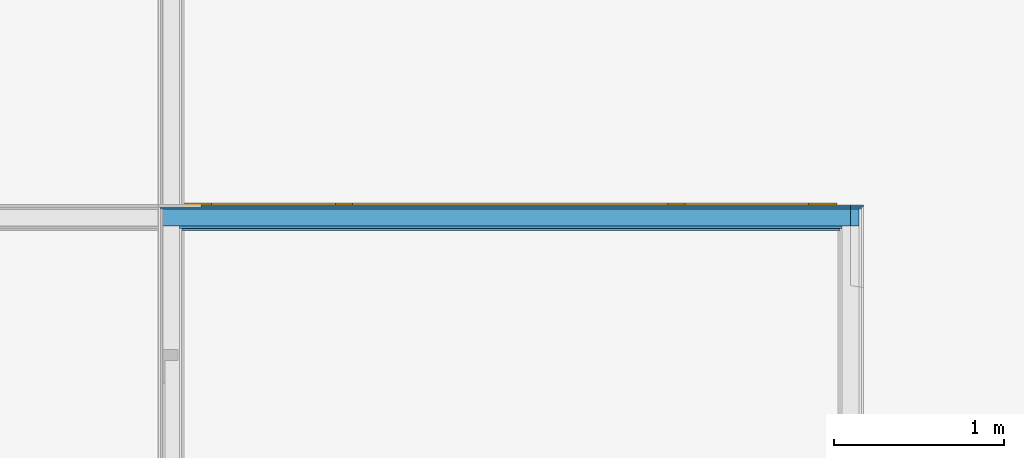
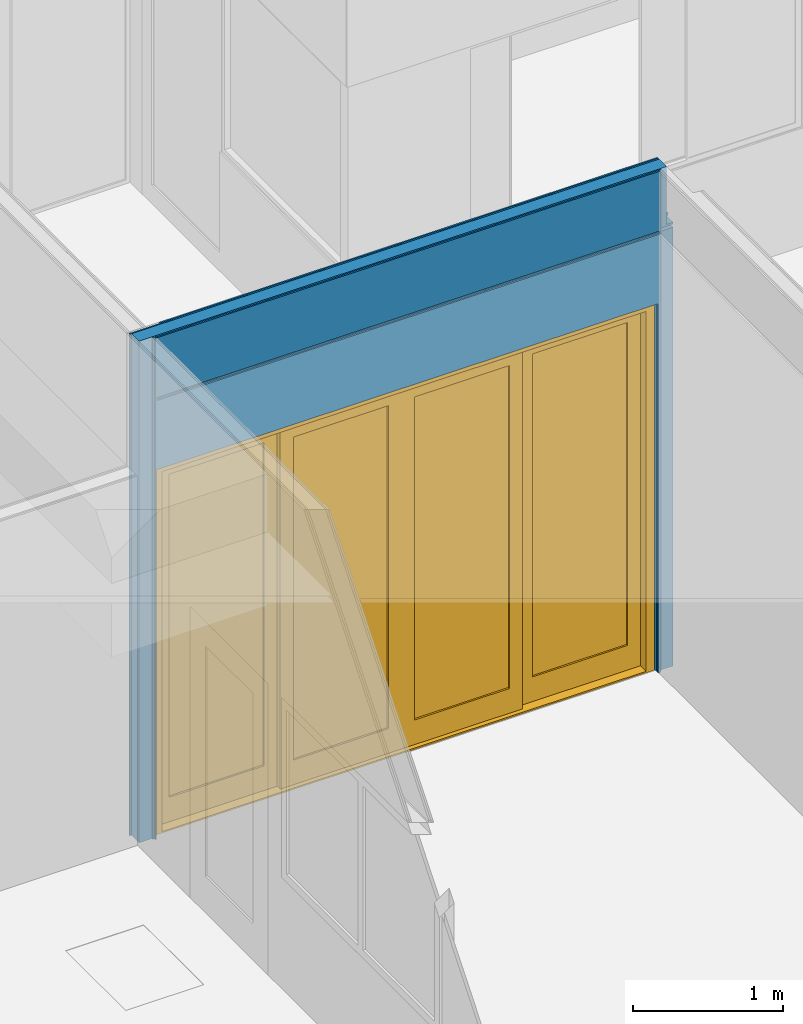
# One storey, part 31 of 109: 5 building element parts, 1 door, 1 opening, 1 element without a shape of its own.
"""IFC2X3 building model written with IfcOpenShell, lengths in millimetres."""

from ifc_helpers import new_model, entity, si_unit, converted_unit, derived_unit, money_unit, direction, frame, origin_with_axes, place, context, subcontext, project, spatial, open_shell, faceted_brep, surface_model, material, type_object, element, fill, aggregate, save


model = new_model("IFC2X3")

# Units and contexts
model_context = context("Model", 3, precision=0.01, world=origin_with_axes(), true_north=direction((0.0, 1.0)))
body_context = subcontext(model_context, "Body", "Model", "MODEL_VIEW")
ifc_project = project(units=[si_unit("LENGTHUNIT", "METRE", prefix="MILLI"), si_unit("AREAUNIT", "SQUARE_METRE"), si_unit("VOLUMEUNIT", "CUBIC_METRE"), converted_unit("PLANEANGLEUNIT", "DEGREE", entity("IfcPlaneAngleMeasure", 0.0174532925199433), si_unit("PLANEANGLEUNIT", "RADIAN"), dimensions=[0, 0, 0, 0, 0, 0, 0]), money_unit("EUR"), converted_unit("TIMEUNIT", "Year", entity("IfcTimeMeasure", 31557600.0), si_unit("TIMEUNIT", "SECOND"), dimensions=[0, 0, 1, 0, 0, 0, 0]), si_unit("MASSUNIT", "GRAM", prefix="KILO"), si_unit("THERMODYNAMICTEMPERATUREUNIT", "DEGREE_CELSIUS"), si_unit("LUMINOUSINTENSITYUNIT", "LUMEN"), si_unit("ENERGYUNIT", "JOULE", prefix="MEGA"), derived_unit("THERMALCONDUCTANCEUNIT", [(si_unit("POWERUNIT", "WATT"), 1), (si_unit("LENGTHUNIT", "METRE"), -1), (si_unit("THERMODYNAMICTEMPERATUREUNIT", "KELVIN"), -1)]), derived_unit("SPECIFICHEATCAPACITYUNIT", [(si_unit("ENERGYUNIT", "JOULE"), 1), (si_unit("MASSUNIT", "GRAM", prefix="KILO"), -1), (si_unit("THERMODYNAMICTEMPERATUREUNIT", "KELVIN"), -1)]), derived_unit("MASSDENSITYUNIT", [(si_unit("MASSUNIT", "GRAM", prefix="KILO"), 1), (si_unit("VOLUMEUNIT", "CUBIC_METRE"), -1)])], contexts=[model_context])

# Site, building, storey
site_placement = place(None, origin_with_axes())
site = spatial("IfcSite", under=ifc_project, at=site_placement, Name="<site naam>", CompositionType="ELEMENT")
building_placement = place(site_placement, origin_with_axes())
building = spatial("IfcBuilding", under=site, at=building_placement, Name="<Naam gebouw>", CompositionType="ELEMENT")
storey_placement = place(building_placement, origin_with_axes())
storey = spatial("IfcBuildingStorey", under=building, at=storey_placement, Name="00 Begane grond", CompositionType="ELEMENT", Elevation=0.0)

# Door
door_style = type_object("IfcDoorStyle", Name="DSn 27", ConstructionType="NOTDEFINED", OperationType="USERDEFINED", ParameterTakesPrecedence=False, Sizeable=False)
wall_placement = place(storey_placement, frame((0.0, 8000.000000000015, 0.0), z_axis=(0.0, 0.0, 1.0), x_axis=(-1.0, 0.0, 0.0)))
opening_placement = place(wall_placement, frame((2004.913523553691, 0.0, 0.0), z_axis=(0.0, 0.0, 1.0), x_axis=(1.0, 0.0, 0.0)))
door_placement = place(opening_placement, frame((1925.0, 0.0, 0.0), z_axis=(0.0, 0.0, 1.0), x_axis=(-1.0, 0.0, 0.0)))
door = element("IfcDoor", 1, at=door_placement, inside=storey, type_object=door_style, Name="22_BI-G-01_305", ObjectType="DOOR", OverallHeight=3000.0, OverallWidth=3850.0, context=body_context, shape_type="SurfaceModel", body=[
    faceted_brep([(3783.0, 84.99999999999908, 0.0), (3783.0, -29.00000000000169, 0.0), (67.00000000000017, -29.0000000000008, 0.0), (67.00000000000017, 84.99999999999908, 0.0), (3783.0, 84.99999999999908, 12.0), (3783.0, -29.00000000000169, 11.99999999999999), (67.00000000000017, -29.0000000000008, 12.00000000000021), (67.00000000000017, 84.99999999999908, 12.00000000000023)], [[[0, 1, 2, 3]], [[0, 4, 5, 1]], [[1, 5, 6, 2]], [[3, 2, 6, 7]], [[4, 0, 3, 7]], [[5, 4, 7, 6]]]),
    faceted_brep([(0.0, 84.99999999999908, 0.0), (67.00000000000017, 84.99999999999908, 0.0), (67.00000000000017, -29.0000000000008, 0.0), (0.0, -29.0000000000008, 0.0), (0.0, 84.99999999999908, 2933.0), (67.00000000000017, 84.99999999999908, 2933.0), (67.00000000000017, -29.0000000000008, 2933.0), (0.0, -29.0000000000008, 2933.0)], [[[0, 1, 2, 3]], [[0, 4, 5, 1]], [[1, 5, 6, 2]], [[3, 2, 6, 7]], [[4, 0, 3, 7]], [[5, 4, 7, 6]]]),
    faceted_brep([(3850.0, 84.99999999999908, 0.0), (3850.0, 84.99999999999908, 2933.0), (3850.0, -29.00000000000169, 2933.0), (3850.0, -29.00000000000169, 0.0), (3783.0, 84.99999999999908, 0.0), (3783.0, 84.99999999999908, 2933.0), (3783.0, -29.00000000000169, 2933.0), (3783.0, -29.00000000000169, 0.0)], [[[0, 1, 2, 3]], [[0, 4, 5, 1]], [[1, 5, 6, 2]], [[3, 2, 6, 7]], [[4, 0, 3, 7]], [[5, 4, 7, 6]]]),
    faceted_brep([(0.0, 84.99999999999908, 3000.0), (0.0, 84.99999999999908, 2933.0), (0.0, -29.0000000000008, 2933.0), (0.0, -29.0000000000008, 3000.0), (3850.0, 84.99999999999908, 3000.0), (3850.0, 84.99999999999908, 2933.0), (3783.0, 84.99999999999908, 2933.0), (67.00000000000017, 84.99999999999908, 2933.0), (67.00000000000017, -29.0000000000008, 2933.0), (3783.0, -29.00000000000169, 2933.0), (3850.0, -29.00000000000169, 2933.0), (3850.0, -29.00000000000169, 3000.0)], [[[0, 1, 2, 3]], [[0, 4, 5, 6, 7, 1]], [[1, 7, 8, 2]], [[3, 2, 8, 9, 10, 11]], [[4, 0, 3, 11]], [[5, 4, 11, 10]], [[6, 5, 10, 9]], [[7, 6, 9, 8]]]),
    faceted_brep([(996.0, 84.99999999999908, 212.0), (996.0, 44.99999999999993, 212.0), (895.9999999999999, 44.99999999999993, 212.0), (895.9999999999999, 84.99999999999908, 212.0), (996.0, 84.99999999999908, 2833.0), (996.0, 44.99999999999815, 2833.0), (895.9999999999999, 44.99999999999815, 2833.0), (895.9999999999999, 84.99999999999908, 2833.0)], [[[0, 1, 2, 3]], [[4, 5, 1, 0]], [[1, 5, 6, 2]], [[3, 2, 6, 7]], [[0, 3, 7, 4]], [[7, 6, 5, 4]]]),
    faceted_brep([(67.00000000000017, 84.99999999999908, 212.0), (67.00000000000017, 44.99999999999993, 212.0), (67.00000000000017, 44.99999999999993, 2833.0), (67.00000000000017, 84.99999999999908, 2833.0), (167.0000000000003, 84.99999999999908, 212.0), (167.0000000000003, 44.99999999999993, 212.0), (167.0000000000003, 44.99999999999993, 2833.0), (167.0000000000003, 84.99999999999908, 2833.0)], [[[0, 1, 2, 3]], [[4, 5, 1, 0]], [[1, 5, 6, 2]], [[3, 2, 6, 7]], [[0, 3, 7, 4]], [[7, 6, 5, 4]]]),
    faceted_brep([(996.0, 84.99999999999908, 12.0), (996.0, 44.99999999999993, 12.0), (67.00000000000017, 44.99999999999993, 12.0), (67.00000000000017, 84.99999999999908, 12.0), (996.0, 84.99999999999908, 212.0), (996.0, 44.99999999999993, 212.0), (895.9999999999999, 44.99999999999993, 212.0), (167.0000000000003, 44.99999999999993, 212.0), (67.00000000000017, 44.99999999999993, 212.0), (67.00000000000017, 84.99999999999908, 212.0), (167.0000000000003, 84.99999999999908, 212.0), (895.9999999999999, 84.99999999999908, 212.0)], [[[0, 1, 2, 3]], [[4, 5, 1, 0]], [[1, 5, 6, 7, 8, 2]], [[3, 2, 8, 9]], [[0, 3, 9, 10, 11, 4]], [[11, 6, 5, 4]], [[10, 7, 6, 11]], [[9, 8, 7, 10]]]),
    faceted_brep([(996.0, 84.99999999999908, 2933.0), (996.0, 44.99999999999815, 2933.0), (996.0, 44.99999999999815, 2833.0), (996.0, 84.99999999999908, 2833.0), (67.00000000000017, 84.99999999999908, 2933.0), (67.00000000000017, 44.99999999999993, 2933.0), (67.00000000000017, 44.99999999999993, 2833.0), (167.0000000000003, 44.99999999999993, 2833.0), (895.9999999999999, 44.99999999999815, 2833.0), (895.9999999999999, 84.99999999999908, 2833.0), (167.0000000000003, 84.99999999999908, 2833.0), (67.00000000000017, 84.99999999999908, 2833.0)], [[[0, 1, 2, 3]], [[4, 5, 1, 0]], [[1, 5, 6, 7, 8, 2]], [[3, 2, 8, 9]], [[0, 3, 9, 10, 11, 4]], [[11, 6, 5, 4]], [[10, 7, 6, 11]], [[9, 8, 7, 10]]]),
    surface_model("IfcShellBasedSurfaceModel", [(895.9999999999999, 70.99999999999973, 212.0), (167.0000000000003, 70.99999999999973, 212.0), (167.0000000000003, 70.99999999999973, 2833.0), (895.9999999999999, 70.99999999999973, 2833.0)], [open_shell([[[0, 1, 2, 3]]])]),
    surface_model("IfcShellBasedSurfaceModel", [(895.9999999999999, 58.99999999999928, 212.0), (895.9999999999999, 58.99999999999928, 2833.0), (167.0000000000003, 58.99999999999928, 2833.0), (167.0000000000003, 58.99999999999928, 212.0)], [open_shell([[[0, 1, 2, 3]]])]),
    faceted_brep([(996.0, 44.99999999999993, 212.0), (1096.0, 44.99999999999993, 212.0), (1096.0, 4.999999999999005, 212.0), (996.0, 4.999999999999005, 212.0), (996.0, 44.99999999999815, 2833.0), (1096.0, 44.99999999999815, 2833.0), (1096.0, 4.999999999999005, 2833.0), (996.0, 4.999999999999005, 2833.0)], [[[0, 1, 2, 3]], [[0, 4, 5, 1]], [[1, 5, 6, 2]], [[3, 2, 6, 7]], [[4, 0, 3, 7]], [[5, 4, 7, 6]]]),
    faceted_brep([(1925.0, 44.99999999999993, 212.0), (1925.0, 44.99999999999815, 2833.0), (1925.0, 4.999999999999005, 2833.0), (1925.0, 4.999999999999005, 212.0), (1825.0, 44.99999999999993, 212.0), (1825.0, 44.99999999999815, 2833.0), (1825.0, 4.999999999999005, 2833.0), (1825.0, 4.999999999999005, 212.0)], [[[0, 1, 2, 3]], [[0, 4, 5, 1]], [[1, 5, 6, 2]], [[3, 2, 6, 7]], [[4, 0, 3, 7]], [[5, 4, 7, 6]]]),
    faceted_brep([(996.0, 44.99999999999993, 12.0), (1925.0, 44.99999999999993, 12.0), (1925.0, 4.999999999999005, 11.99999999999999), (996.0, 4.999999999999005, 11.99999999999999), (996.0, 44.99999999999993, 212.0), (1096.0, 44.99999999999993, 212.0), (1825.0, 44.99999999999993, 212.0), (1925.0, 44.99999999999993, 212.0), (1925.0, 4.999999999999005, 212.0), (1825.0, 4.999999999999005, 212.0), (1096.0, 4.999999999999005, 212.0), (996.0, 4.999999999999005, 212.0)], [[[0, 1, 2, 3]], [[0, 4, 5, 6, 7, 1]], [[1, 7, 8, 2]], [[3, 2, 8, 9, 10, 11]], [[4, 0, 3, 11]], [[5, 4, 11, 10]], [[6, 5, 10, 9]], [[7, 6, 9, 8]]]),
    faceted_brep([(996.0, 44.99999999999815, 2933.0), (996.0, 44.99999999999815, 2833.0), (996.0, 4.999999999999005, 2833.0), (996.0, 4.999999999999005, 2933.0), (1925.0, 44.99999999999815, 2933.0), (1925.0, 44.99999999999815, 2833.0), (1825.0, 44.99999999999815, 2833.0), (1096.0, 44.99999999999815, 2833.0), (1096.0, 4.999999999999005, 2833.0), (1825.0, 4.999999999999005, 2833.0), (1925.0, 4.999999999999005, 2833.0), (1925.0, 4.999999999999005, 2933.0)], [[[0, 1, 2, 3]], [[0, 4, 5, 6, 7, 1]], [[1, 7, 8, 2]], [[3, 2, 8, 9, 10, 11]], [[4, 0, 3, 11]], [[5, 4, 11, 10]], [[6, 5, 10, 9]], [[7, 6, 9, 8]]]),
    surface_model("IfcShellBasedSurfaceModel", [(1096.0, 30.99999999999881, 212.0), (1096.0, 30.99999999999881, 2833.0), (1825.0, 30.99999999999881, 2833.0), (1825.0, 30.99999999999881, 212.0)], [open_shell([[[0, 1, 2, 3]]])]),
    surface_model("IfcShellBasedSurfaceModel", [(1096.0, 19.00000000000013, 212.0), (1825.0, 18.99999999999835, 212.0), (1825.0, 18.99999999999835, 2833.0), (1096.0, 18.99999999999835, 2833.0)], [open_shell([[[0, 1, 2, 3]]])]),
    faceted_brep([(2854.0, 84.99999999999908, 212.0), (2954.0, 84.99999999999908, 212.0), (2954.0, 44.99999999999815, 212.0), (2854.0, 44.99999999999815, 212.0), (2854.0, 84.99999999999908, 2833.0), (2954.0, 84.99999999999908, 2833.0), (2954.0, 44.99999999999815, 2833.0), (2854.0, 44.99999999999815, 2833.0)], [[[0, 1, 2, 3]], [[0, 4, 5, 1]], [[1, 5, 6, 2]], [[3, 2, 6, 7]], [[4, 0, 3, 7]], [[5, 4, 7, 6]]]),
    faceted_brep([(3783.0, 84.99999999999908, 212.0), (3783.0, 84.99999999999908, 2833.0), (3783.0, 44.99999999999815, 2833.0), (3783.0, 44.99999999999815, 212.0), (3683.0, 84.99999999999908, 212.0), (3683.0, 84.99999999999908, 2833.0), (3683.0, 44.99999999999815, 2833.0), (3683.0, 44.99999999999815, 212.0)], [[[0, 1, 2, 3]], [[0, 4, 5, 1]], [[1, 5, 6, 2]], [[3, 2, 6, 7]], [[4, 0, 3, 7]], [[5, 4, 7, 6]]]),
    faceted_brep([(2854.0, 84.99999999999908, 12.0), (3783.0, 84.99999999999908, 12.0), (3783.0, 44.99999999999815, 12.0), (2854.0, 44.99999999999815, 12.0), (2854.0, 84.99999999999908, 212.0), (2954.0, 84.99999999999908, 212.0), (3683.0, 84.99999999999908, 212.0), (3783.0, 84.99999999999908, 212.0), (3783.0, 44.99999999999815, 212.0), (3683.0, 44.99999999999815, 212.0), (2954.0, 44.99999999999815, 212.0), (2854.0, 44.99999999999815, 212.0)], [[[0, 1, 2, 3]], [[0, 4, 5, 6, 7, 1]], [[1, 7, 8, 2]], [[3, 2, 8, 9, 10, 11]], [[4, 0, 3, 11]], [[5, 4, 11, 10]], [[6, 5, 10, 9]], [[7, 6, 9, 8]]]),
    faceted_brep([(2854.0, 84.99999999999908, 2933.0), (2854.0, 84.99999999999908, 2833.0), (2854.0, 44.99999999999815, 2833.0), (2854.0, 44.99999999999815, 2933.0), (3783.0, 84.99999999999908, 2933.0), (3783.0, 84.99999999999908, 2833.0), (3683.0, 84.99999999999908, 2833.0), (2954.0, 84.99999999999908, 2833.0), (2954.0, 44.99999999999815, 2833.0), (3683.0, 44.99999999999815, 2833.0), (3783.0, 44.99999999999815, 2833.0), (3783.0, 44.99999999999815, 2933.0)], [[[0, 1, 2, 3]], [[0, 4, 5, 6, 7, 1]], [[1, 7, 8, 2]], [[3, 2, 8, 9, 10, 11]], [[4, 0, 3, 11]], [[5, 4, 11, 10]], [[6, 5, 10, 9]], [[7, 6, 9, 8]]]),
    surface_model("IfcShellBasedSurfaceModel", [(2954.0, 70.99999999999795, 212.0), (2954.0, 70.99999999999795, 2833.0), (3683.0, 70.99999999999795, 2833.0), (3683.0, 70.99999999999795, 212.0)], [open_shell([[[0, 1, 2, 3]]])]),
    surface_model("IfcShellBasedSurfaceModel", [(2954.0, 58.99999999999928, 212.0), (3683.0, 58.99999999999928, 212.0), (3683.0, 58.99999999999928, 2833.0), (2954.0, 58.99999999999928, 2833.0)], [open_shell([[[0, 1, 2, 3]]])]),
    faceted_brep([(2854.0, 44.99999999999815, 212.0), (2854.0, 4.999999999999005, 212.0), (2754.0, 4.999999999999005, 212.0), (2754.0, 44.99999999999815, 212.0), (2854.0, 44.99999999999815, 2833.0), (2854.0, 4.999999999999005, 2833.0), (2754.0, 4.999999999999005, 2833.0), (2754.0, 44.99999999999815, 2833.0)], [[[0, 1, 2, 3]], [[4, 5, 1, 0]], [[1, 5, 6, 2]], [[3, 2, 6, 7]], [[0, 3, 7, 4]], [[7, 6, 5, 4]]]),
    faceted_brep([(1925.0, 44.99999999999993, 212.0), (1925.0, 4.999999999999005, 212.0), (1925.0, 4.999999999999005, 2833.0), (1925.0, 44.99999999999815, 2833.0), (2025.0, 44.99999999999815, 212.0), (2025.0, 4.999999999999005, 212.0), (2025.0, 4.999999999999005, 2833.0), (2025.0, 44.99999999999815, 2833.0)], [[[0, 1, 2, 3]], [[4, 5, 1, 0]], [[1, 5, 6, 2]], [[3, 2, 6, 7]], [[0, 3, 7, 4]], [[7, 6, 5, 4]]]),
    faceted_brep([(2854.0, 44.99999999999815, 12.0), (2854.0, 4.999999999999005, 11.99999999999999), (1925.0, 4.999999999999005, 11.99999999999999), (1925.0, 44.99999999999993, 12.0), (2854.0, 44.99999999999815, 212.0), (2854.0, 4.999999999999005, 212.0), (2754.0, 4.999999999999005, 212.0), (2025.0, 4.999999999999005, 212.0), (1925.0, 4.999999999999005, 212.0), (1925.0, 44.99999999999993, 212.0), (2025.0, 44.99999999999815, 212.0), (2754.0, 44.99999999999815, 212.0)], [[[0, 1, 2, 3]], [[4, 5, 1, 0]], [[1, 5, 6, 7, 8, 2]], [[3, 2, 8, 9]], [[0, 3, 9, 10, 11, 4]], [[11, 6, 5, 4]], [[10, 7, 6, 11]], [[9, 8, 7, 10]]]),
    faceted_brep([(2854.0, 44.99999999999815, 2933.0), (2854.0, 4.999999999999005, 2933.0), (2854.0, 4.999999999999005, 2833.0), (2854.0, 44.99999999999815, 2833.0), (1925.0, 44.99999999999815, 2933.0), (1925.0, 4.999999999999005, 2933.0), (1925.0, 4.999999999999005, 2833.0), (2025.0, 4.999999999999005, 2833.0), (2754.0, 4.999999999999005, 2833.0), (2754.0, 44.99999999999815, 2833.0), (2025.0, 44.99999999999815, 2833.0), (1925.0, 44.99999999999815, 2833.0)], [[[0, 1, 2, 3]], [[4, 5, 1, 0]], [[1, 5, 6, 7, 8, 2]], [[3, 2, 8, 9]], [[0, 3, 9, 10, 11, 4]], [[11, 6, 5, 4]], [[10, 7, 6, 11]], [[9, 8, 7, 10]]]),
    surface_model("IfcShellBasedSurfaceModel", [(2754.0, 30.99999999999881, 212.0), (2025.0, 30.99999999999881, 212.0), (2025.0, 30.99999999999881, 2833.0), (2754.0, 30.99999999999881, 2833.0)], [open_shell([[[0, 1, 2, 3]]])]),
    surface_model("IfcShellBasedSurfaceModel", [(2754.0, 18.99999999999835, 212.0), (2754.0, 18.99999999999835, 2833.0), (2025.0, 18.99999999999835, 2833.0), (2025.0, 18.99999999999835, 212.0)], [open_shell([[[0, 1, 2, 3]]])]),
])

# Wall, opening
wall_type = type_object("IfcWallType", Name="MS-01 GF 150 ECO DGS/2.100.2.A 150", PredefinedType="NOTDEFINED")
wall = element("IfcWall", 2, at=wall_placement, inside=storey, type_object=wall_type, Name="22_Binnenwand_MS-01")
opening = element("IfcOpeningElement", 3, at=opening_placement, cuts=wall, Name="22_BI-G-01_305", context=body_context, shape_type="Brep", body=[
    faceted_brep([(1925.0, 76.00000000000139, 3000.0), (1925.0, 76.00000000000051, 0.0), (-1925.0, 76.00000000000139, 0.0), (-1925.0, 76.00000000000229, 3000.0), (1925.0, -75.99999999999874, 3000.0), (1925.0, -76.00000000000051, 0.0), (-1925.0, -75.99999999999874, 0.0), (-1925.0, -75.99999999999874, 3000.0)], [[[0, 1, 2, 3]], [[4, 5, 1, 0]], [[5, 6, 2, 1]], [[6, 7, 3, 2]], [[7, 4, 0, 3]], [[6, 5, 4, 7]]]),
])

fill(opening, door)

# Building element part
ifc_material_1 = material(Name="gipsplaat")
building_element_part_1_placement = place(wall_placement, origin_with_axes())
building_element_part_1 = element("IfcBuildingElementPart", 4, at=building_element_part_1_placement, material=ifc_material_1, Name="gipsplaat", context=body_context, shape_type="Brep", body=[
    faceted_brep([(62.50000000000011, 75.00000000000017, 4070.0), (62.50000000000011, 75.00000000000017, 3585.0), (62.50000000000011, 62.5, 3585.0), (62.50000000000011, 62.5, 4070.0), (3925.000176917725, 75.00000000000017, 3560.0), (3925.000176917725, 75.00000000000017, 3585.0), (3937.500000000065, 75.00000000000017, 4070.0), (3937.500000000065, 74.99999999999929, 0.0), (3925.000003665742, 74.99999999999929, 0.0), (3925.000003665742, 75.00000000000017, 3.000000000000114), (75.0000165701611, 75.00000000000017, 3.000000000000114), (75.0000165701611, 75.00000000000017, 0.0), (62.50000000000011, 75.00000000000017, 0.0), (62.50000000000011, 75.00000000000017, 3560.0), (3925.000176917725, 62.5, 3585.0), (3925.000176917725, 62.5, 3560.0), (62.50000000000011, 62.5, 3560.0), (62.50000000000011, 62.5, 0.0), (75.0000165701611, 62.5, 0.0), (75.0000165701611, 62.5, 3.000000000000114), (3925.000003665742, 62.5, 3.000000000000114), (3925.000003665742, 62.5, 0.0), (3937.500000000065, 62.5, 0.0), (3937.500000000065, 62.5, 4070.0)], [[[0, 1, 2, 3]], [[4, 5, 1, 0, 6, 7, 8, 9, 10, 11, 12, 13]], [[5, 14, 2, 1]], [[14, 15, 16, 17, 18, 19, 20, 21, 22, 23, 3, 2]], [[0, 3, 23, 6]], [[4, 15, 14, 5]], [[22, 7, 6, 23]], [[22, 21, 8, 7]], [[8, 21, 20, 9]], [[9, 20, 19, 10]], [[10, 19, 18, 11]], [[12, 11, 18, 17]], [[17, 16, 13, 12]], [[4, 13, 16, 15]]]),
])

ifc_material_2 = material(Name="isolatie_steenwol LSW")
building_element_part_2_placement = place(wall_placement, origin_with_axes())
building_element_part_2 = element("IfcBuildingElementPart", 5, at=building_element_part_2_placement, material=ifc_material_2, Name="isolatie_steenwol LSW", context=body_context, shape_type="Brep", body=[
    faceted_brep([(4050.000000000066, -50.00000000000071, 4070.0), (0.0, -49.99999999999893, 4070.0), (0.0, -50.00000000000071, 3600.0), (-50.00000000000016, -49.99999999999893, 3600.0), (-50.00000000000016, -49.99999999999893, 3585.0), (3925.000176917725, -50.00000000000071, 3585.0), (3925.000176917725, -50.00000000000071, 3560.0), (-50.00000000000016, -49.99999999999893, 3560.0), (-50.00000000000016, -50.00000000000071, 0.0), (4050.000000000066, -50.00000000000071, 0.0), (4050.000000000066, 49.99999999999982, 4070.0), (0.0, 49.99999999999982, 4070.0), (0.0, 49.99999999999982, 3600.0), (-50.00000000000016, 49.99999999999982, 3600.0), (-50.00000000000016, 49.99999999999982, 3585.0), (3925.000176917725, 49.99999999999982, 3585.0), (3925.000176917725, 49.99999999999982, 3560.0), (-50.00000000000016, 49.99999999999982, 3560.0), (-50.00000000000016, 49.99999999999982, 0.0), (75.0000165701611, 49.99999999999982, 0.0), (75.0000165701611, 39.00000000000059, 0.0), (3925.000003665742, 39.00000000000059, 0.0), (3925.000003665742, 49.99999999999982, 0.0), (4050.000000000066, 49.99999999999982, 0.0), (3925.000003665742, 49.99999999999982, 3.000000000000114), (75.0000165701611, 49.99999999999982, 3.000000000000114), (75.0000165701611, 39.00000000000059, 3.000000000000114), (3925.000003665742, 39.00000000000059, 3.000000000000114)], [[[0, 1, 2, 3, 4, 5, 6, 7, 8, 9]], [[10, 11, 1, 0]], [[12, 2, 1, 11]], [[12, 13, 3, 2]], [[4, 3, 13, 14]], [[14, 15, 5, 4]], [[15, 16, 6, 5]], [[6, 16, 17, 7]], [[18, 8, 7, 17]], [[19, 20, 21, 22, 23, 9, 8, 18]], [[0, 9, 23, 10]], [[13, 12, 11, 10, 23, 22, 24, 25, 19, 18, 17, 16, 15, 14]], [[25, 26, 20, 19]], [[26, 27, 21, 20]], [[27, 24, 22, 21]], [[27, 26, 25, 24]]]),
])

building_element_part_3_placement = place(wall_placement, origin_with_axes())
building_element_part_3 = element("IfcBuildingElementPart", 6, at=building_element_part_3_placement, material=ifc_material_1, Name="gipsplaat", context=body_context, shape_type="Brep", body=[
    faceted_brep([(49.99999999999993, 62.5, 4070.0), (49.99999999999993, 62.5, 3585.0), (49.99999999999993, 49.99999999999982, 3585.0), (49.99999999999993, 49.99999999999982, 4070.0), (3925.000176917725, 62.49999999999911, 3560.0), (3925.000176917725, 62.49999999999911, 3585.0), (3950.000000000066, 62.5, 4070.0), (3950.000000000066, 62.5, 0.0), (3925.000003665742, 62.5, 0.0), (3925.000003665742, 62.5, 3.000000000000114), (75.0000165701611, 62.5, 3.000000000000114), (75.0000165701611, 62.5, 0.0), (49.99999999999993, 62.5, 0.0), (49.99999999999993, 62.5, 3560.0), (3925.000176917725, 49.99999999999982, 3585.0), (3925.000176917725, 49.99999999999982, 3560.0), (49.99999999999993, 49.99999999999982, 3560.0), (49.99999999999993, 49.99999999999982, 0.0), (75.0000165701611, 49.99999999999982, 0.0), (75.0000165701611, 49.99999999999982, 3.000000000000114), (3925.000003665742, 49.99999999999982, 3.000000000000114), (3925.000003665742, 49.99999999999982, 0.0), (3950.000000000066, 49.99999999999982, 0.0), (3950.000000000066, 49.99999999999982, 4070.0)], [[[0, 1, 2, 3]], [[4, 5, 1, 0, 6, 7, 8, 9, 10, 11, 12, 13]], [[5, 14, 2, 1]], [[14, 15, 16, 17, 18, 19, 20, 21, 22, 23, 3, 2]], [[0, 3, 23, 6]], [[4, 15, 14, 5]], [[22, 7, 6, 23]], [[22, 21, 8, 7]], [[8, 21, 20, 9]], [[9, 20, 19, 10]], [[10, 19, 18, 11]], [[12, 11, 18, 17]], [[17, 16, 13, 12]], [[4, 13, 16, 15]]]),
])

building_element_part_4_placement = place(wall_placement, origin_with_axes())
building_element_part_4 = element("IfcBuildingElementPart", 7, at=building_element_part_4_placement, material=ifc_material_1, Name="gipsplaat", context=body_context, shape_type="Brep", body=[
    faceted_brep([(4062.500000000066, -62.5, 4070.0), (0.0, -62.5, 4070.0), (0.0, -62.5, 3600.0), (-62.50000000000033, -62.5, 3600.0), (-62.50000000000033, -62.5, 3585.0), (3925.000176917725, -62.5, 3585.0), (3925.000176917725, -62.5, 3560.0), (-62.50000000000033, -62.5, 3560.0), (-62.50000000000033, -62.5, 0.0), (4062.500000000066, -62.5, 0.0), (4062.500000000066, -50.00000000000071, 4070.0), (0.0, -49.99999999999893, 4070.0), (0.0, -50.00000000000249, 3600.0), (-62.50000000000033, -49.99999999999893, 3600.0), (-62.50000000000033, -49.99999999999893, 3585.0), (3925.000176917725, -50.00000000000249, 3585.0), (3925.000176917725, -50.00000000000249, 3560.0), (-62.50000000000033, -49.99999999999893, 3560.0), (-62.50000000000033, -50.00000000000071, 0.0), (4062.500000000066, -50.00000000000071, 0.0)], [[[0, 1, 2, 3, 4, 5, 6, 7, 8, 9]], [[10, 11, 1, 0]], [[12, 2, 1, 11]], [[12, 13, 3, 2]], [[4, 3, 13, 14]], [[14, 15, 5, 4]], [[15, 16, 6, 5]], [[6, 16, 17, 7]], [[18, 8, 7, 17]], [[9, 8, 18, 19]], [[0, 9, 19, 10]], [[13, 12, 11, 10, 19, 18, 17, 16, 15, 14]]]),
])

building_element_part_5_placement = place(wall_placement, origin_with_axes())
building_element_part_5 = element("IfcBuildingElementPart", 8, at=building_element_part_5_placement, material=ifc_material_1, Name="gipsplaat", context=body_context, shape_type="Brep", body=[
    faceted_brep([(3825.000000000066, -75.00000000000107, 4070.0), (0.0, -74.99999999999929, 4070.0), (0.0, -74.99999999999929, 3600.0), (-74.99999999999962, -74.99999999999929, 3600.0), (-74.99999999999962, -74.99999999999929, 3585.0), (3825.000000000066, -75.00000000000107, 3585.0), (3825.000000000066, -62.5, 4070.0), (0.0, -62.5, 4070.0), (0.0, -62.5, 3600.0), (-74.99999999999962, -62.5, 3600.0), (-74.99999999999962, -62.5, 3585.0), (3825.000000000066, -62.5, 3585.0)], [[[0, 1, 2, 3, 4, 5]], [[6, 7, 1, 0]], [[8, 2, 1, 7]], [[8, 9, 3, 2]], [[4, 3, 9, 10]], [[10, 11, 5, 4]], [[6, 0, 5, 11]], [[9, 8, 7, 6, 11, 10]]]),
    faceted_brep([(3825.000000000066, -75.00000000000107, 3560.0), (-74.99999999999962, -74.99999999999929, 3560.0), (-74.99999999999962, -74.99999999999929, 0.0), (3825.000000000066, -75.00000000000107, 0.0), (-74.99999999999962, -62.5, 3560.0), (3825.000000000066, -62.5, 3560.0), (-74.99999999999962, -62.5, 0.0), (3825.000000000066, -62.5, 0.0)], [[[0, 1, 2, 3]], [[4, 1, 0, 5]], [[1, 4, 6, 2]], [[6, 7, 3, 2]], [[5, 0, 3, 7]], [[4, 5, 7, 6]]]),
])

aggregate(wall, [building_element_part_1, building_element_part_2, building_element_part_3, building_element_part_4, building_element_part_5])

save(model, "model.ifc")
